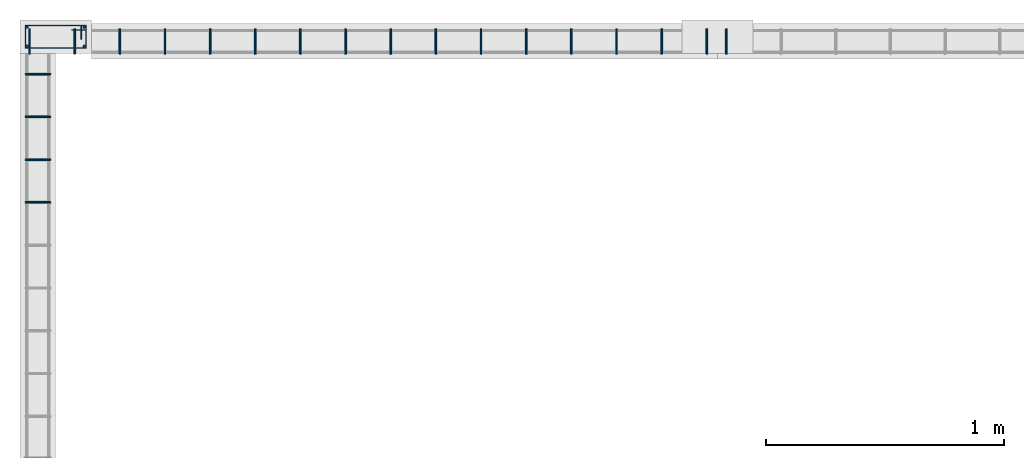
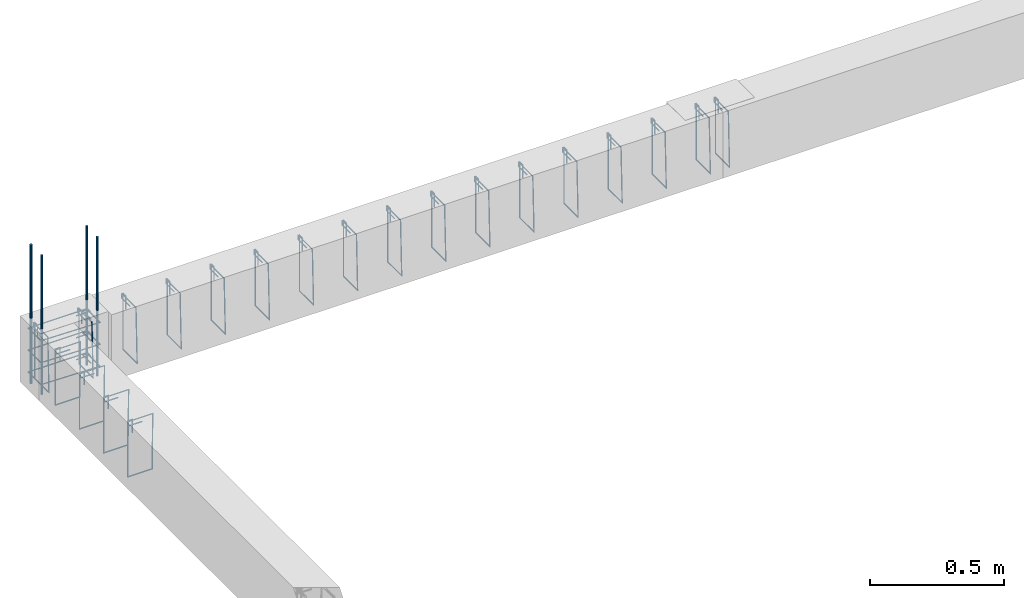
# One storey, part 124 of 150: 28 reinforcing bars.
"""IFC4 building model written with IfcOpenShell, lengths in centimetres."""

from ifc_helpers import new_model, entity, si_unit, derived_unit, frame, origin_with_axes, place, context, project, spatial, source, transform, mapped, element, save


model = new_model("IFC4")

# Units and contexts
model_context = context("Model", 3, precision=1e-05, world=origin_with_axes(), identifier="Body")
ifc_project = project(units=[si_unit("LENGTHUNIT", "METRE", prefix="CENTI"), si_unit("VOLUMEUNIT", "CUBIC_METRE"), si_unit("AREAUNIT", "SQUARE_METRE"), si_unit("POWERUNIT", "WATT"), si_unit("LUMINOUSFLUXUNIT", "LUMEN"), si_unit("ELECTRICCURRENTUNIT", "AMPERE"), si_unit("PRESSUREUNIT", "PASCAL", prefix="KILO"), si_unit("MASSUNIT", "GRAM", prefix="KILO"), si_unit("PLANEANGLEUNIT", "RADIAN"), derived_unit("VOLUMETRICFLOWRATEUNIT", [(si_unit("LENGTHUNIT", "METRE"), 3), (si_unit("TIMEUNIT", "SECOND"), -1)])], contexts=[model_context])

# Site, building, storey
site_placement = place(None, frame((-4000.0, 0.0, 0.0), z_axis=(0.0, 0.0, 1.0), x_axis=(1.0, 0.0, 0.0)))
site = spatial("IfcSite", under=ifc_project, at=site_placement, Name="PADRÃO")
building_placement = place(site_placement, frame((0.0, 0.0, -14.0)))
building = spatial("IfcBuilding", under=site, at=building_placement, Name="CRECHE PRÉ-ESCOLA TIPO 2")
placement = place(building_placement, origin_with_axes())
storey_placement = place(placement, frame((0.0, 0.0, 30.0), z_axis=(0.0, 0.0, 1.0), x_axis=(1.0, 0.0, 0.0)))
storey = spatial("IfcBuildingStorey", under=building, at=storey_placement, Name="VIGA BALDRAME", CompositionType="ELEMENT", Elevation=16.0)

# Reinforcing bars
shared_shape_1 = source(origin_with_axes(), model_context, "Body", "AdvancedSweptSolid", [
    entity("IfcSweptDiskSolid", entity("IfcCompositeCurve", [entity("IfcCompositeCurveSegment", "CONTINUOUS", True, entity("IfcPolyline", [entity("IfcCartesianPoint", [4.25, 21.75, 0.0]), entity("IfcCartesianPoint", [4.25, 27.75, 0.0])])), entity("IfcCompositeCurveSegment", "CONTINUOUS", True, entity("IfcPolyline", [entity("IfcCartesianPoint", [4.25, 27.75, 0.0]), entity("IfcCartesianPoint", [2.25, 27.75, 0.0])])), entity("IfcCompositeCurveSegment", "CONTINUOUS", True, entity("IfcPolyline", [entity("IfcCartesianPoint", [2.25, 27.75, 0.0]), entity("IfcCartesianPoint", [2.25, 2.25, 0.0])])), entity("IfcCompositeCurveSegment", "CONTINUOUS", True, entity("IfcPolyline", [entity("IfcCartesianPoint", [2.25, 2.25, 0.0]), entity("IfcCartesianPoint", [11.75, 2.25, 0.0])])), entity("IfcCompositeCurveSegment", "CONTINUOUS", True, entity("IfcPolyline", [entity("IfcCartesianPoint", [11.75, 2.25, 0.0]), entity("IfcCartesianPoint", [11.75, 27.75, -0.5])])), entity("IfcCompositeCurveSegment", "CONTINUOUS", True, entity("IfcPolyline", [entity("IfcCartesianPoint", [11.75, 27.75, -0.5]), entity("IfcCartesianPoint", [2.25, 27.75, -0.5])])), entity("IfcCompositeCurveSegment", "CONTINUOUS", True, entity("IfcPolyline", [entity("IfcCartesianPoint", [2.25, 27.75, -0.5]), entity("IfcCartesianPoint", [2.25, 25.75, -0.5])])), entity("IfcCompositeCurveSegment", "CONTINUOUS", True, entity("IfcPolyline", [entity("IfcCartesianPoint", [2.25, 25.75, -0.5]), entity("IfcCartesianPoint", [8.25, 25.75, -0.5])]))], False), 0.25),
])
for number, where, z_axis, x_axis, name in (
    (1, (1.5, 4495.5, -15.0), (0.0, 0.0, 1.0), (0.0, -1.0, 0.0), "P1 - Estribo"),
    (2, (1.5, 4495.5, -25.0), (0.0, 0.0, 1.0), (0.0, -1.0, 0.0), "P1 - Estribo"),
    (3, (1.5, 4495.5, -5.0), (0.0, 0.0, 1.0), (0.0, -1.0, 0.0), "P1 - Estribo"),
):
    element("IfcReinforcingBar", number, at=place(storey_placement, frame(where, z_axis=z_axis, x_axis=x_axis)), inside=storey, Name=name, BarLength=0.0, CrossSectionArea=1.9634954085e-05, NominalDiameter=0.5, PredefinedType="MAIN", context=model_context, shape_type="MappedRepresentation", body=[
        mapped(shared_shape_1, transform((0.0, 0.0, 0.0), scale=1.0)),
    ])
shared_shape_2 = source(origin_with_axes(), model_context, "Body", "AdvancedSweptSolid", [
    entity("IfcSweptDiskSolid", entity("IfcCompositeCurve", [entity("IfcCompositeCurveSegment", "CONTINUOUS", True, entity("IfcPolyline", [entity("IfcCartesianPoint", [2.0, -6.0, 0.0]), entity("IfcCartesianPoint", [2.0, 0.0, 0.0])])), entity("IfcCompositeCurveSegment", "CONTINUOUS", True, entity("IfcPolyline", [entity("IfcCartesianPoint", [2.0, 0.0, 0.0]), entity("IfcCartesianPoint", [0.0, 0.0, 0.0])])), entity("IfcCompositeCurveSegment", "CONTINUOUS", True, entity("IfcPolyline", [entity("IfcCartesianPoint", [0.0, 0.0, 0.0]), entity("IfcCartesianPoint", [0.0, -25.5, 0.0])])), entity("IfcCompositeCurveSegment", "CONTINUOUS", True, entity("IfcPolyline", [entity("IfcCartesianPoint", [0.0, -25.5, 0.0]), entity("IfcCartesianPoint", [10.5, -25.5, 0.0])])), entity("IfcCompositeCurveSegment", "CONTINUOUS", True, entity("IfcPolyline", [entity("IfcCartesianPoint", [10.5, -25.5, 0.0]), entity("IfcCartesianPoint", [10.5, 0.0, 0.5])])), entity("IfcCompositeCurveSegment", "CONTINUOUS", True, entity("IfcPolyline", [entity("IfcCartesianPoint", [10.5, 0.0, 0.5]), entity("IfcCartesianPoint", [0.0, 0.0, 0.5])])), entity("IfcCompositeCurveSegment", "CONTINUOUS", True, entity("IfcPolyline", [entity("IfcCartesianPoint", [0.0, 0.0, 0.5]), entity("IfcCartesianPoint", [0.0, -2.0, 0.5])])), entity("IfcCompositeCurveSegment", "CONTINUOUS", True, entity("IfcPolyline", [entity("IfcCartesianPoint", [0.0, -2.0, 0.5]), entity("IfcCartesianPoint", [6.0, -2.0, 0.5])]))], False), 0.25),
])
for number, where, z_axis, x_axis, name in (
    (4, (3.75, 4473.0, -2.25), (0.0, -1.0, 0.0), (1.0, 0.0, 0.0), "V159 - Estribo"),
    (5, (3.75, 4455.0, -2.25), (0.0, -1.0, 0.0), (1.0, 0.0, 0.0), "V159 - Estribo"),
    (6, (3.75, 4437.0, -2.25), (0.0, -1.0, 0.0), (1.0, 0.0, 0.0), "V159 - Estribo"),
    (7, (3.75, 4419.0, -2.25), (0.0, -1.0, 0.0), (1.0, 0.0, 0.0), "V159 - Estribo"),
):
    element("IfcReinforcingBar", number, at=place(storey_placement, frame(where, z_axis=z_axis, x_axis=x_axis)), inside=storey, Name=name, BarLength=0.0, CrossSectionArea=1.9634954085e-05, NominalDiameter=0.5, PredefinedType="MAIN", context=model_context, shape_type="MappedRepresentation", body=[
        mapped(shared_shape_2, transform((0.0, 0.0, 0.0), scale=1.0)),
    ])
shared_shape_3 = source(origin_with_axes(), model_context, "Body", "AdvancedSweptSolid", [
    entity("IfcSweptDiskSolid", entity("IfcCompositeCurve", [entity("IfcCompositeCurveSegment", "CONTINUOUS", True, entity("IfcPolyline", [entity("IfcCartesianPoint", [2.0, -6.0, 0.0]), entity("IfcCartesianPoint", [2.0, 0.0, 0.0])])), entity("IfcCompositeCurveSegment", "CONTINUOUS", True, entity("IfcPolyline", [entity("IfcCartesianPoint", [2.0, 0.0, 0.0]), entity("IfcCartesianPoint", [0.0, 0.0, 0.0])])), entity("IfcCompositeCurveSegment", "CONTINUOUS", True, entity("IfcPolyline", [entity("IfcCartesianPoint", [0.0, 0.0, 0.0]), entity("IfcCartesianPoint", [0.0, -25.5, 0.0])])), entity("IfcCompositeCurveSegment", "CONTINUOUS", True, entity("IfcPolyline", [entity("IfcCartesianPoint", [0.0, -25.5, 0.0]), entity("IfcCartesianPoint", [10.5, -25.5, 0.0])])), entity("IfcCompositeCurveSegment", "CONTINUOUS", True, entity("IfcPolyline", [entity("IfcCartesianPoint", [10.5, -25.5, 0.0]), entity("IfcCartesianPoint", [10.5, 0.0, 0.5])])), entity("IfcCompositeCurveSegment", "CONTINUOUS", True, entity("IfcPolyline", [entity("IfcCartesianPoint", [10.5, 0.0, 0.5]), entity("IfcCartesianPoint", [0.0, 0.0, 0.5])])), entity("IfcCompositeCurveSegment", "CONTINUOUS", True, entity("IfcPolyline", [entity("IfcCartesianPoint", [0.0, 0.0, 0.5]), entity("IfcCartesianPoint", [0.0, -2.0, 0.5])])), entity("IfcCompositeCurveSegment", "CONTINUOUS", True, entity("IfcPolyline", [entity("IfcCartesianPoint", [0.0, -2.0, 0.5]), entity("IfcCartesianPoint", [6.0, -2.0, 0.5])]))], False), 0.25),
])
for number, where, z_axis, x_axis, name in (
    (8, (5.75, 4491.75, -2.25), (-1.0, 0.0, 0.0), (0.0, -1.0, 0.0), "V101 - Estribo"),
    (9, (43.75, 4491.75, -2.25), (-1.0, 0.0, 0.0), (0.0, -1.0, 0.0), "V101 - Estribo"),
    (10, (62.75, 4491.75, -2.25), (-1.0, 0.0, 0.0), (0.0, -1.0, 0.0), "V101 - Estribo"),
    (11, (81.75, 4491.75, -2.25), (-1.0, 0.0, 0.0), (0.0, -1.0, 0.0), "V101 - Estribo"),
    (12, (100.75, 4491.75, -2.25), (-1.0, 0.0, 0.0), (0.0, -1.0, 0.0), "V101 - Estribo"),
    (13, (119.75, 4491.75, -2.25), (-1.0, 0.0, 0.0), (0.0, -1.0, 0.0), "V101 - Estribo"),
    (14, (138.75, 4491.75, -2.25), (-1.0, 0.0, 0.0), (0.0, -1.0, 0.0), "V101 - Estribo"),
    (15, (157.75, 4491.75, -2.25), (-1.0, 0.0, 0.0), (0.0, -1.0, 0.0), "V101 - Estribo"),
    (16, (176.75, 4491.75, -2.25), (-1.0, 0.0, 0.0), (0.0, -1.0, 0.0), "V101 - Estribo"),
    (17, (214.75, 4491.75, -2.25), (-1.0, 0.0, 0.0), (0.0, -1.0, 0.0), "V101 - Estribo"),
    (18, (233.75, 4491.75, -2.25), (-1.0, 0.0, 0.0), (0.0, -1.0, 0.0), "V101 - Estribo"),
    (19, (252.75, 4491.75, -2.25), (-1.0, 0.0, 0.0), (0.0, -1.0, 0.0), "V101 - Estribo"),
    (20, (271.75, 4491.75, -2.25), (-1.0, 0.0, 0.0), (0.0, -1.0, 0.0), "V101 - Estribo"),
    (21, (290.75, 4491.75, -2.25), (-1.0, 0.0, 0.0), (0.0, -1.0, 0.0), "V101 - Estribo"),
    (22, (195.75, 4491.75, -2.25), (-1.0, 0.0, 0.0), (0.0, -1.0, 0.0), "V101 - Estribo"),
    (23, (24.75, 4491.75, -2.25), (-1.0, 0.0, 0.0), (0.0, -1.0, 0.0), "V101 - Estribo"),
):
    element("IfcReinforcingBar", number, at=place(storey_placement, frame(where, z_axis=z_axis, x_axis=x_axis)), inside=storey, Name=name, BarLength=0.0, CrossSectionArea=1.9634954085e-05, NominalDiameter=0.5, PredefinedType="MAIN", context=model_context, shape_type="MappedRepresentation", body=[
        mapped(shared_shape_3, transform((0.0, 0.0, 0.0), scale=1.0)),
    ])
shared_shape_4 = source(origin_with_axes(), model_context, "Body", "AdvancedSweptSolid", [
    entity("IfcSweptDiskSolid", entity("IfcCompositeCurve", [entity("IfcCompositeCurveSegment", "CONTINUOUS", True, entity("IfcPolyline", [entity("IfcCartesianPoint", [2.0, -6.0, 0.0]), entity("IfcCartesianPoint", [2.0, 0.0, 0.0])])), entity("IfcCompositeCurveSegment", "CONTINUOUS", True, entity("IfcPolyline", [entity("IfcCartesianPoint", [2.0, 0.0, 0.0]), entity("IfcCartesianPoint", [0.0, 0.0, 0.0])])), entity("IfcCompositeCurveSegment", "CONTINUOUS", True, entity("IfcPolyline", [entity("IfcCartesianPoint", [0.0, 0.0, 0.0]), entity("IfcCartesianPoint", [0.0, -25.5, 0.0])])), entity("IfcCompositeCurveSegment", "CONTINUOUS", True, entity("IfcPolyline", [entity("IfcCartesianPoint", [0.0, -25.5, 0.0]), entity("IfcCartesianPoint", [10.5, -25.5, 0.0])])), entity("IfcCompositeCurveSegment", "CONTINUOUS", True, entity("IfcPolyline", [entity("IfcCartesianPoint", [10.5, -25.5, 0.0]), entity("IfcCartesianPoint", [10.5, 0.0, 0.5])])), entity("IfcCompositeCurveSegment", "CONTINUOUS", True, entity("IfcPolyline", [entity("IfcCartesianPoint", [10.5, 0.0, 0.5]), entity("IfcCartesianPoint", [0.0, 0.0, 0.5])])), entity("IfcCompositeCurveSegment", "CONTINUOUS", True, entity("IfcPolyline", [entity("IfcCartesianPoint", [0.0, 0.0, 0.5]), entity("IfcCartesianPoint", [0.0, -2.0, 0.5])])), entity("IfcCompositeCurveSegment", "CONTINUOUS", True, entity("IfcPolyline", [entity("IfcCartesianPoint", [0.0, -2.0, 0.5]), entity("IfcCartesianPoint", [6.0, -2.0, 0.5])]))], False), 0.25),
])
reinforcing_bar_placement = place(storey_placement, frame((299.0, 4491.75, -2.25), z_axis=(-1.0, 0.0, 0.0), x_axis=(0.0, -1.0, 0.0)))
element("IfcReinforcingBar", 24, at=reinforcing_bar_placement, inside=storey, Name="V101 - Estribo", BarLength=0.0, CrossSectionArea=1.9634954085e-05, NominalDiameter=0.5, PredefinedType="MAIN", context=model_context, shape_type="MappedRepresentation", body=[
    mapped(shared_shape_4, transform((0.0, 0.0, 0.0), scale=1.0)),
])
for number, where, z_axis, x_axis, name in (
    (25, (28.5, 4484.5, 33.3573001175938), (0.0, 0.0, 1.0), (1.0, 0.0, 0.0), "P1 - Longitudinal"),
    (26, (4.5, 4492.5, 33.3573001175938), (0.0, 0.0, 1.0), (1.0, 0.0, 0.0), "P1 - Longitudinal"),
    (27, (4.5, 4484.5, 33.3573001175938), (0.0, 0.0, 1.0), (1.0, 0.0, 0.0), "P1 - Longitudinal"),
    (28, (28.5, 4492.5, 33.3573001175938), (0.0, 0.0, 1.0), (1.0, 0.0, 0.0), "P1 - Longitudinal"),
):
    element("IfcReinforcingBar", number, at=place(storey_placement, frame(where, z_axis=z_axis, x_axis=x_axis)), inside=storey, Name=name, BarLength=0.0, CrossSectionArea=7.853981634e-05, NominalDiameter=1.0, PredefinedType="MAIN", context=model_context, shape_type="AdvancedSweptSolid", body=[
        entity("IfcSweptDiskSolid", entity("IfcCompositeCurve", [entity("IfcCompositeCurveSegment", "CONTINUOUS", True, entity("IfcPolyline", [entity("IfcCartesianPoint", [0.0, 0.0, -63.3573001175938]), entity("IfcCartesianPoint", [0.0, 0.0, 0.0])]))], False), 0.5),
    ])

save(model, "model.ifc")
